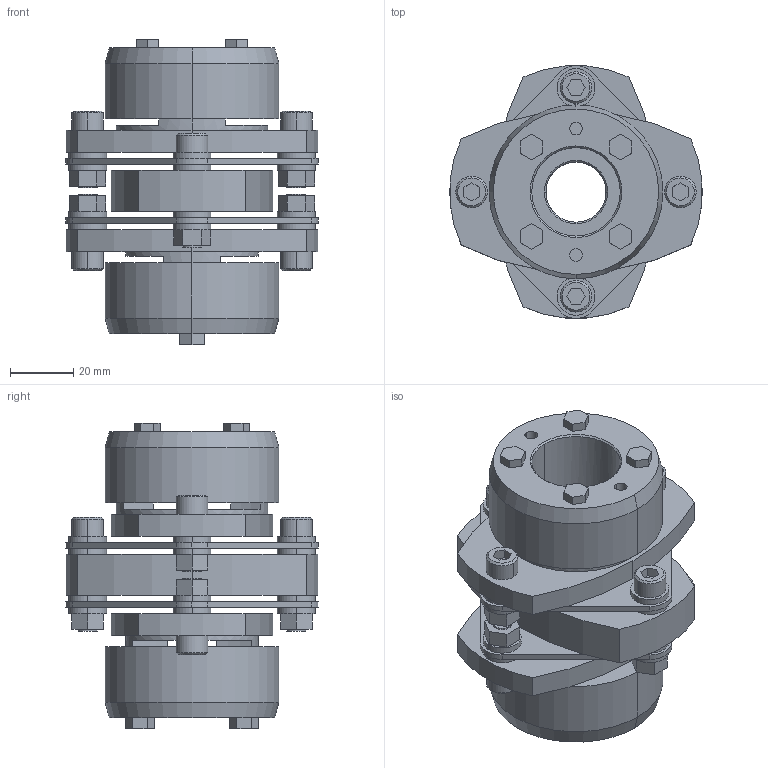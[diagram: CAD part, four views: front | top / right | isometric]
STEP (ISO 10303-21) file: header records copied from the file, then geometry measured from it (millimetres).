
FILE_DESCRIPTION((''),'2;1');
FILE_NAME('LCD-80T7-19×28.stp','2011-09-15T13:39:08',(''),(''),'AutoCAD STEP 2000i','AutoCAD 2000i',', , ');
FILE_SCHEMA(('CONFIG_CONTROL_DESIGN'));
Length unit declared in the file: millimetre
Products named in the file (10): LCD-80T7-19×28; 忣兜1; LC80T7-T028; LC80T7-T024; LC80T7-T022; LC80T7-T019-1; LC80T7-T019; LC80T7-T017-1; LC80T7-T017; LCD80-ITA
Assembly tree (9 placements, depth 2):
  LCD-80T7-19×28
    忣兜1
    LC80T7-T028
    LC80T7-T024
    LC80T7-T022
    LC80T7-T019-1
    LC80T7-T019
    LC80T7-T017-1
    LC80T7-T017
    LCD80-ITA
Bounding box: 80 x 79.95 x 96.8 mm (x, y, z)
Volume: 182621.7 mm3; surface area: 57616.3 mm2
Topology: 1 solids, 1 shells, 320 faces, 780 edges, 512 vertices
Faces by surface type: plane 176, cylinder 120, cone 24
Entity records: 9705 total; most frequent: DIRECTION 1720, CARTESIAN_POINT 1622, ORIENTED_EDGE 1560, EDGE_CURVE 780, AXIS2_PLACEMENT_3D 610, VERTEX_POINT 512, VECTOR 500, LINE 500
